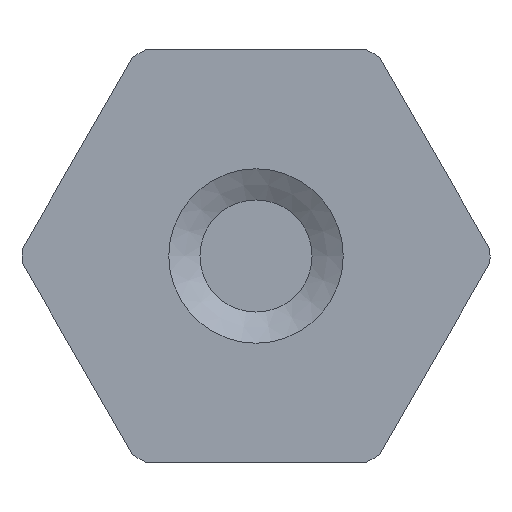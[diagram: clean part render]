
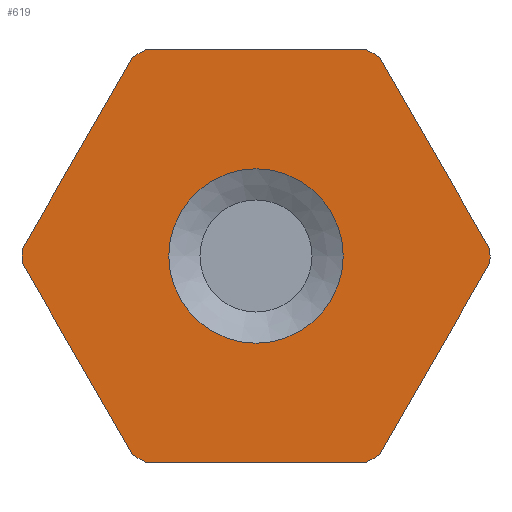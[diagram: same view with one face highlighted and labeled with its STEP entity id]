
A CAD part, left-side view. The second image highlights one B-rep face of the part: STEP entity #619.
In plain terms, the highlighted planar face has unit normal (-1, 0, 0).
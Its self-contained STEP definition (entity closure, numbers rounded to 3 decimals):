
#12=LINE($,#995,#42);
#13=LINE($,#999,#43);
#14=LINE($,#1003,#44);
#15=LINE($,#1007,#45);
#16=LINE($,#1011,#46);
#17=LINE($,#1015,#47);
#42=VECTOR($,#816,4.266);
#43=VECTOR($,#819,4.266);
#44=VECTOR($,#822,4.266);
#45=VECTOR($,#825,4.266);
#46=VECTOR($,#828,4.266);
#47=VECTOR($,#831,4.266);
#83=PLANE($,#686);
#132=FACE_BOUND($,#216,.T.);
#133=FACE_BOUND($,#217,.T.);
#216=EDGE_LOOP($,(#447));
#217=EDGE_LOOP($,(#448,#449,#450,#451,#452,#453,#454,#455,#456,#457,#458,
#459));
#242=CIRCLE($,#645,1.676);
#263=CIRCLE($,#687,4.5);
#264=CIRCLE($,#688,4.5);
#265=CIRCLE($,#689,4.5);
#266=CIRCLE($,#690,4.5);
#267=CIRCLE($,#691,4.5);
#268=CIRCLE($,#692,4.5);
#283=VERTEX_POINT($,#930);
#304=VERTEX_POINT($,#993);
#305=VERTEX_POINT($,#994);
#306=VERTEX_POINT($,#996);
#307=VERTEX_POINT($,#998);
#308=VERTEX_POINT($,#1000);
#309=VERTEX_POINT($,#1002);
#310=VERTEX_POINT($,#1004);
#311=VERTEX_POINT($,#1006);
#312=VERTEX_POINT($,#1008);
#313=VERTEX_POINT($,#1010);
#314=VERTEX_POINT($,#1012);
#315=VERTEX_POINT($,#1014);
#336=EDGE_CURVE($,#283,#283,#242,.T.);
#357=EDGE_CURVE($,#304,#305,#12,.T.);
#358=EDGE_CURVE($,#306,#305,#263,.T.);
#359=EDGE_CURVE($,#306,#307,#13,.T.);
#360=EDGE_CURVE($,#308,#307,#264,.T.);
#361=EDGE_CURVE($,#308,#309,#14,.T.);
#362=EDGE_CURVE($,#310,#309,#265,.T.);
#363=EDGE_CURVE($,#310,#311,#15,.T.);
#364=EDGE_CURVE($,#312,#311,#266,.T.);
#365=EDGE_CURVE($,#312,#313,#16,.T.);
#366=EDGE_CURVE($,#314,#313,#267,.T.);
#367=EDGE_CURVE($,#314,#315,#17,.T.);
#368=EDGE_CURVE($,#304,#315,#268,.T.);
#447=ORIENTED_EDGE($,*,*,#336,.T.);
#448=ORIENTED_EDGE($,*,*,#357,.T.);
#449=ORIENTED_EDGE($,*,*,#358,.F.);
#450=ORIENTED_EDGE($,*,*,#359,.T.);
#451=ORIENTED_EDGE($,*,*,#360,.F.);
#452=ORIENTED_EDGE($,*,*,#361,.T.);
#453=ORIENTED_EDGE($,*,*,#362,.F.);
#454=ORIENTED_EDGE($,*,*,#363,.T.);
#455=ORIENTED_EDGE($,*,*,#364,.F.);
#456=ORIENTED_EDGE($,*,*,#365,.T.);
#457=ORIENTED_EDGE($,*,*,#366,.F.);
#458=ORIENTED_EDGE($,*,*,#367,.T.);
#459=ORIENTED_EDGE($,*,*,#368,.F.);
#619=ADVANCED_FACE($,(#132,#133),#83,.T.);
#645=AXIS2_PLACEMENT_3D($,#931,#732,#733);
#686=AXIS2_PLACEMENT_3D($,#992,#814,#815);
#687=AXIS2_PLACEMENT_3D($,#997,#817,#818);
#688=AXIS2_PLACEMENT_3D($,#1001,#820,#821);
#689=AXIS2_PLACEMENT_3D($,#1005,#823,#824);
#690=AXIS2_PLACEMENT_3D($,#1009,#826,#827);
#691=AXIS2_PLACEMENT_3D($,#1013,#829,#830);
#692=AXIS2_PLACEMENT_3D($,#1016,#832,#833);
#732=DIRECTION('center_axis',(1.,0.,0.));
#733=DIRECTION('ref_axis',(0.,-1.,0.));
#814=DIRECTION('center_axis',(-1.,0.,0.));
#815=DIRECTION('ref_axis',(0.,0.,1.));
#816=DIRECTION($,(0.,0.5,-0.866));
#817=DIRECTION('center_axis',(1.,0.,0.));
#818=DIRECTION('ref_axis',(0.,0.,
-1.));
#819=DIRECTION($,(0.,-0.5,-0.866));
#820=DIRECTION('center_axis',(1.,0.,0.));
#821=DIRECTION('ref_axis',(0.,0.,
-1.));
#822=DIRECTION($,(0.,-1.,0.));
#823=DIRECTION('center_axis',(1.,0.,0.));
#824=DIRECTION('ref_axis',(0.,0.,
-1.));
#825=DIRECTION($,(0.,-0.5,0.866));
#826=DIRECTION('center_axis',(1.,0.,0.));
#827=DIRECTION('ref_axis',(0.,0.,
-1.));
#828=DIRECTION($,(0.,0.5,0.866));
#829=DIRECTION('center_axis',(1.,0.,0.));
#830=DIRECTION('ref_axis',(0.,0.,
-1.));
#831=DIRECTION($,(0.,1.,0.));
#832=DIRECTION('center_axis',(1.,0.,0.));
#833=DIRECTION('ref_axis',(0.,0.,
-1.));
#930=CARTESIAN_POINT('',(-10.962,5.237,2.551));
#931=CARTESIAN_POINT('Origin',(-10.962,6.914,2.551));
#992=CARTESIAN_POINT('Origin',(-10.962,11.414,2.551));
#993=CARTESIAN_POINT('',(-10.962,9.279,6.38));
#994=CARTESIAN_POINT('',(-10.962,11.412,2.685));
#995=CARTESIAN_POINT($,(-10.962,10.973,3.445));
#996=CARTESIAN_POINT('',(-10.962,11.412,2.417));
#997=CARTESIAN_POINT('Origin',(-10.962,6.914,2.551));
#998=CARTESIAN_POINT('',(-10.962,9.279,-1.277));
#999=CARTESIAN_POINT($,(-10.962,10.842,1.431));
#1000=CARTESIAN_POINT('',(-10.962,9.047,-1.411));
#1001=CARTESIAN_POINT('Origin',(-10.962,6.914,2.551));
#1002=CARTESIAN_POINT('',(-10.962,4.781,-1.411));
#1003=CARTESIAN_POINT($,(-10.962,9.033,-1.411));
#1004=CARTESIAN_POINT('',(-10.962,4.549,-1.277));
#1005=CARTESIAN_POINT('Origin',(-10.962,6.914,2.551));
#1006=CARTESIAN_POINT('',(-10.962,2.416,2.417));
#1007=CARTESIAN_POINT($,(-10.962,3.979,-0.291));
#1008=CARTESIAN_POINT('',(-10.962,2.416,2.685));
#1009=CARTESIAN_POINT('Origin',(-10.962,6.914,2.551));
#1010=CARTESIAN_POINT('',(-10.962,4.549,6.38));
#1011=CARTESIAN_POINT($,(-10.962,4.11,5.62));
#1012=CARTESIAN_POINT('',(-10.962,4.781,6.514));
#1013=CARTESIAN_POINT('Origin',(-10.962,6.914,2.551));
#1014=CARTESIAN_POINT('',(-10.962,9.047,6.514));
#1015=CARTESIAN_POINT($,(-10.962,9.295,6.514));
#1016=CARTESIAN_POINT('Origin',(-10.962,6.914,2.551));
